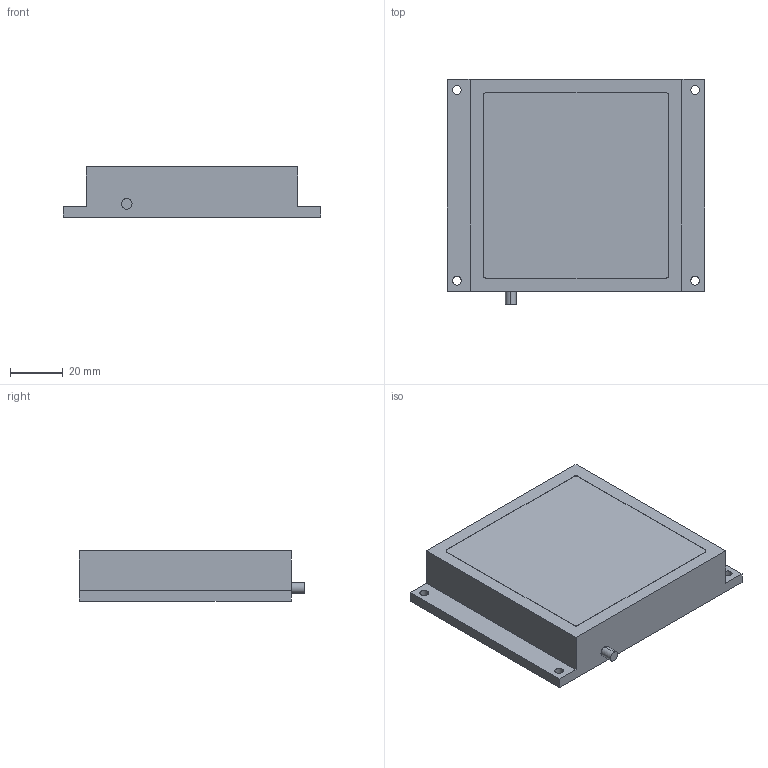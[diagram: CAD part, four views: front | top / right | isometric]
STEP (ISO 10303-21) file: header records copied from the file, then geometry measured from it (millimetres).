
FILE_DESCRIPTION (( 'STEP AP203' ), '1' );
FILE_NAME ('CK-FLB7070.STEP', '2025-09-09T12:02:21', ( '' ), ( '' ), 'SwSTEP 2.0', 'SolidWorks 2022', '' );
FILE_SCHEMA (( 'CONFIG_CONTROL_DESIGN' ));
Length unit declared in the file: millimetre
Products named in the file (1): CK-FLB7070
Bounding box: 97.3 x 85 x 19 mm (x, y, z)
Volume: 126572.1 mm3; surface area: 21974.5 mm2
Topology: 1 solids, 1 shells, 30 faces, 78 edges, 52 vertices
Faces by surface type: plane 16, cylinder 14
Entity records: 1023 total; most frequent: DIRECTION 168, CARTESIAN_POINT 161, ORIENTED_EDGE 156, EDGE_CURVE 78, AXIS2_PLACEMENT_3D 59, VERTEX_POINT 52, VECTOR 50, LINE 50
